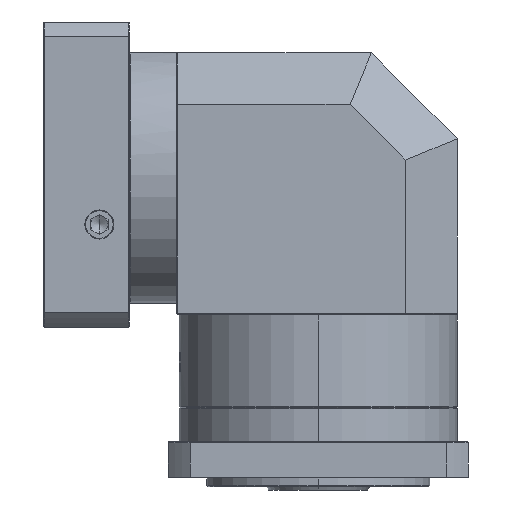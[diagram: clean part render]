
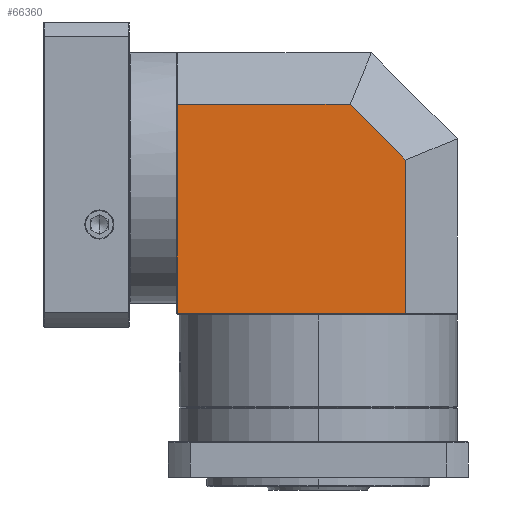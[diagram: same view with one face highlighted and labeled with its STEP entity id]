
A CAD part, left-side view. The second image highlights one B-rep face of the part: STEP entity #66360.
In plain terms, the highlighted planar face has unit normal (-1, 0, 0).
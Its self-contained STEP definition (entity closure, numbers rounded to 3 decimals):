
#3 = CARTESIAN_POINT ( 'NONE',  ( -171.808, 3.996, 56.664 ) ) ;
#2957 = LINE ( 'NONE', #17181, #110748 ) ;
#2988 = ORIENTED_EDGE ( 'NONE', *, *, #21739, .T. ) ;
#4754 = DIRECTION ( 'NONE',  ( 0., -1., 0. ) ) ;
#10226 = EDGE_CURVE ( 'NONE', #47450, #33088, #2957, .T. ) ;
#17181 = CARTESIAN_POINT ( 'NONE',  ( -171.808, 55.746, 89.091 ) ) ;
#20141 = EDGE_CURVE ( 'NONE', #119278, #33088, #35566, .T. ) ;
#21739 = EDGE_CURVE ( 'NONE', #119278, #87334, #107833, .T. ) ;
#23406 = ORIENTED_EDGE ( 'NONE', *, *, #20141, .F. ) ;
#32779 = CARTESIAN_POINT ( 'NONE',  ( -171.808, 136.996, 42.991 ) ) ;
#33088 = VERTEX_POINT ( 'NONE', #40102 ) ;
#33636 = EDGE_CURVE ( 'NONE', #87334, #124924, #75579, .T. ) ;
#35566 = LINE ( 'NONE', #32779, #104698 ) ;
#38708 = VECTOR ( 'NONE', #73404, 1000. ) ;
#40102 = CARTESIAN_POINT ( 'NONE',  ( -171.808, 136.996, 89.091 ) ) ;
#44186 = CARTESIAN_POINT ( 'NONE',  ( -171.808, 3.996, 56.664 ) ) ;
#46522 = CARTESIAN_POINT ( 'NONE',  ( -171.808, 36.422, 89.091 ) ) ;
#47423 = FACE_OUTER_BOUND ( 'NONE', #112322, .T. ) ;
#47450 = VERTEX_POINT ( 'NONE', #46522 ) ;
#48803 = VECTOR ( 'NONE', #82590, 1000. ) ;
#52568 = AXIS2_PLACEMENT_3D ( 'NONE', #110260, #81521, #91810 ) ;
#53081 = EDGE_CURVE ( 'NONE', #124924, #47450, #58043, .T. ) ;
#58043 = LINE ( 'NONE', #44186, #48803 ) ;
#63250 = VECTOR ( 'NONE', #4754, 1000. ) ;
#66360 = ADVANCED_FACE ( 'NONE', ( #47423 ), #81957, .T. ) ;
#70058 = CARTESIAN_POINT ( 'NONE',  ( -171.808, 3.996, 42.991 ) ) ;
#73404 = DIRECTION ( 'NONE',  ( 0., 0., 1. ) ) ;
#75579 = LINE ( 'NONE', #70058, #38708 ) ;
#81521 = DIRECTION ( 'NONE',  ( -1., 0., 0. ) ) ;
#81957 = PLANE ( 'NONE',  #52568 ) ;
#82590 = DIRECTION ( 'NONE',  ( 0., 0.707, 0.707 ) ) ;
#86700 = ORIENTED_EDGE ( 'NONE', *, *, #33636, .T. ) ;
#87334 = VERTEX_POINT ( 'NONE', #112453 ) ;
#88710 = DIRECTION ( 'NONE',  ( 0., 1., 0. ) ) ;
#91492 = CARTESIAN_POINT ( 'NONE',  ( -171.808, 136.996, -32.609 ) ) ;
#91810 = DIRECTION ( 'NONE',  ( 0., 0., -1. ) ) ;
#102015 = CARTESIAN_POINT ( 'NONE',  ( -171.808, 55.746, -32.609 ) ) ;
#102481 = ORIENTED_EDGE ( 'NONE', *, *, #10226, .T. ) ;
#104698 = VECTOR ( 'NONE', #110622, 1000. ) ;
#107833 = LINE ( 'NONE', #102015, #63250 ) ;
#110260 = CARTESIAN_POINT ( 'NONE',  ( -171.808, 55.746, 42.991 ) ) ;
#110622 = DIRECTION ( 'NONE',  ( 0., 0., 1. ) ) ;
#110748 = VECTOR ( 'NONE', #88710, 1000. ) ;
#112322 = EDGE_LOOP ( 'NONE', ( #23406, #2988, #86700, #120753, #102481 ) ) ;
#112453 = CARTESIAN_POINT ( 'NONE',  ( -171.808, 3.996, -32.609 ) ) ;
#119278 = VERTEX_POINT ( 'NONE', #91492 ) ;
#120753 = ORIENTED_EDGE ( 'NONE', *, *, #53081, .T. ) ;
#124924 = VERTEX_POINT ( 'NONE', #3 ) ;
